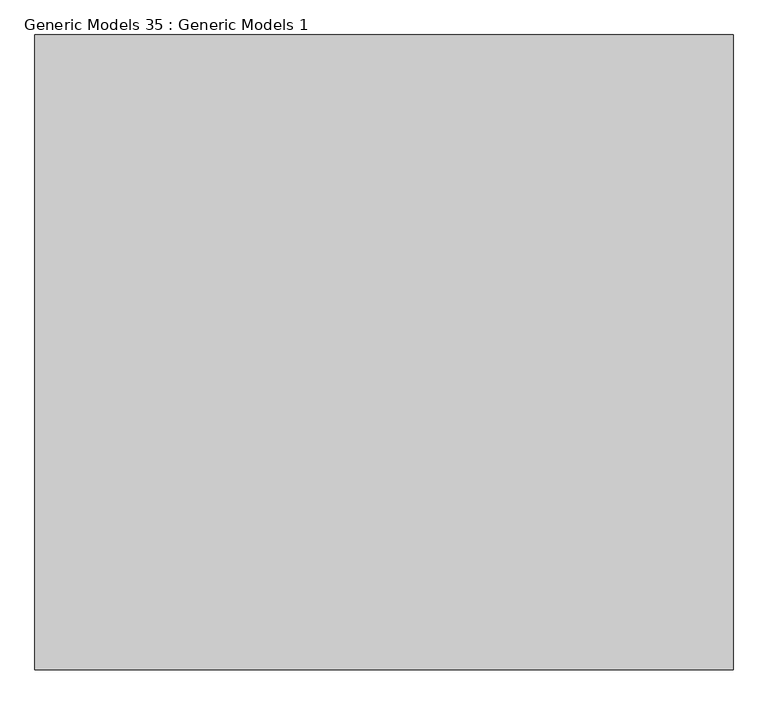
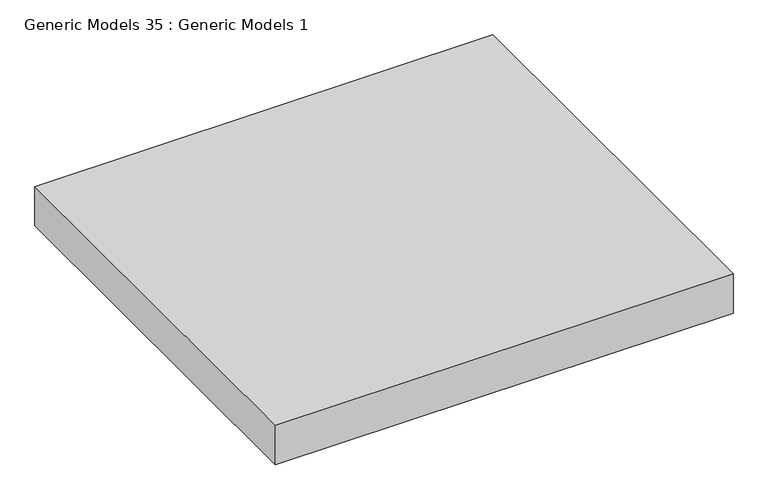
"""IFC4 building model written with IfcOpenShell, lengths in millimetres: proxy geometry, Generic Models 35 : Generic Models 1."""

from ifc_helpers import new_model, si_unit, origin, origin_with_axes, place, context, project, spatial, polyline, outline, extrude, source, transform, mapped, element, save


def generic_models_35_generic_models_1_a8d7d454(model_context):
    return source(origin(), model_context, "Body", "SweptSolid", [
        extrude(outline(polyline([(-3504.8268345, -3424.1855869), (-3504.8268345, -2424.1855869), (-2404.8268345, -2424.1855869), (-2404.8268345, -3424.1855869), (-3504.8268345, -3424.1855869)])), origin_with_axes(), (0.0, 0.0, 1.0), 100.0),
    ])


if __name__ == "__main__":
    model = new_model("IFC4")
    model_context = context("Model", 3, world=origin())
    ifc_project = project(units=[si_unit("LENGTHUNIT", "METRE", prefix="MILLI")], contexts=[model_context])
    site = spatial("IfcSite", under=ifc_project)
    building = spatial("IfcBuilding", under=site)
    placement = place(None, origin())
    generic_models_35_generic_models_1_shape = generic_models_35_generic_models_1_a8d7d454(model_context)
    element("IfcBuildingElementProxy", 1, Name="Generic Models 35 : Generic Models 1", ObjectType="Generic Models 35 : Generic Models 1", at=placement, inside=building, context=model_context, shape_type="MappedRepresentation", body=[
        mapped(generic_models_35_generic_models_1_shape, transform((0.0, 0.0, 0.0), x_axis=(1.0, 0.0, 0.0), y_axis=(0.0, 1.0, 0.0), z_axis=(0.0, 0.0, 1.0))),
    ])
    save(model, "model.ifc")
